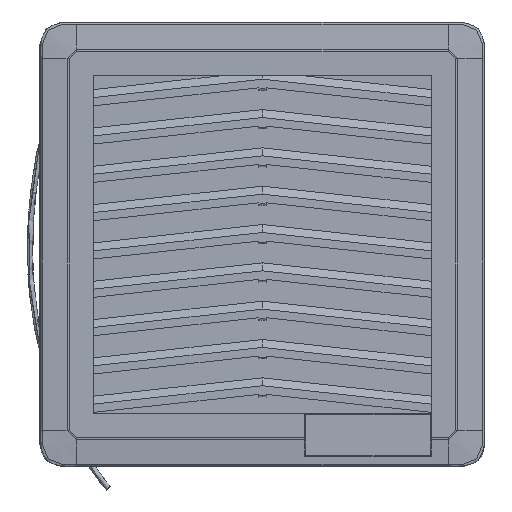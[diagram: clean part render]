
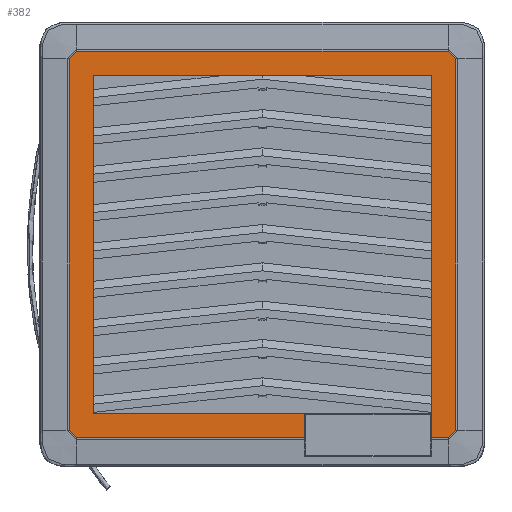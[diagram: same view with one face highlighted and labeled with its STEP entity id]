
A CAD part, top view. The second image highlights one B-rep face of the part: STEP entity #382.
In plain terms, the highlighted planar face has unit normal (0, 0, 1).
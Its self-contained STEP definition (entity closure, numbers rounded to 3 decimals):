
#382=ADVANCED_FACE('',(#805),#7374,.T.);
#805=FACE_OUTER_BOUND('',#1228,.T.);
#1228=EDGE_LOOP('',(#2036,#2037,#2038,#2039,#2040,#2041,#2042,#2043,#2044,
#2045,#2046,#2047,#2048,#2049));
#2036=ORIENTED_EDGE('',*,*,#4276,.F.);
#2037=ORIENTED_EDGE('',*,*,#4291,.F.);
#2038=ORIENTED_EDGE('',*,*,#4279,.F.);
#2039=ORIENTED_EDGE('',*,*,#4296,.F.);
#2040=ORIENTED_EDGE('',*,*,#4280,.F.);
#2041=ORIENTED_EDGE('',*,*,#4302,.F.);
#2042=ORIENTED_EDGE('',*,*,#4281,.F.);
#2043=ORIENTED_EDGE('',*,*,#4306,.F.);
#2044=ORIENTED_EDGE('',*,*,#4282,.F.);
#2045=ORIENTED_EDGE('',*,*,#4283,.F.);
#2046=ORIENTED_EDGE('',*,*,#4026,.F.);
#2047=ORIENTED_EDGE('',*,*,#3996,.F.);
#2048=ORIENTED_EDGE('',*,*,#4266,.T.);
#2049=ORIENTED_EDGE('',*,*,#4001,.T.);
#3996=EDGE_CURVE('',#6358,#6319,#5554,.T.);
#4001=EDGE_CURVE('',#6366,#6365,#5559,.T.);
#4026=EDGE_CURVE('',#6319,#6409,#5584,.T.);
#4266=EDGE_CURVE('',#6358,#6366,#5824,.T.);
#4276=EDGE_CURVE('',#6527,#6365,#5834,.T.);
#4279=EDGE_CURVE('',#6529,#6528,#5835,.T.);
#4280=EDGE_CURVE('',#6531,#6530,#5836,.T.);
#4281=EDGE_CURVE('',#6533,#6532,#5837,.T.);
#4282=EDGE_CURVE('',#6535,#6534,#5838,.T.);
#4283=EDGE_CURVE('',#6409,#6535,#5839,.T.);
#4291=EDGE_CURVE('',#6528,#6527,#5152,.T.);
#4296=EDGE_CURVE('',#6530,#6529,#5156,.T.);
#4302=EDGE_CURVE('',#6532,#6531,#5161,.T.);
#4306=EDGE_CURVE('',#6534,#6533,#5164,.T.);
#5152=(
BOUNDED_CURVE()
B_SPLINE_CURVE(2,(#10065,#10066,#10067),.UNSPECIFIED.,.F.,.F.)
B_SPLINE_CURVE_WITH_KNOTS((3,3),(0.,2.73),.UNSPECIFIED.)
CURVE()
GEOMETRIC_REPRESENTATION_ITEM()
RATIONAL_B_SPLINE_CURVE((1.,0.707,1.))
REPRESENTATION_ITEM('')
);
#5156=(
BOUNDED_CURVE()
B_SPLINE_CURVE(2,(#10079,#10080,#10081),.UNSPECIFIED.,.F.,.F.)
B_SPLINE_CURVE_WITH_KNOTS((3,3),(0.,2.73),.UNSPECIFIED.)
CURVE()
GEOMETRIC_REPRESENTATION_ITEM()
RATIONAL_B_SPLINE_CURVE((1.,0.707,1.))
REPRESENTATION_ITEM('')
);
#5161=(
BOUNDED_CURVE()
B_SPLINE_CURVE(2,(#10096,#10097,#10098),.UNSPECIFIED.,.F.,.F.)
B_SPLINE_CURVE_WITH_KNOTS((3,3),(0.,2.73),.UNSPECIFIED.)
CURVE()
GEOMETRIC_REPRESENTATION_ITEM()
RATIONAL_B_SPLINE_CURVE((1.,0.707,1.))
REPRESENTATION_ITEM('')
);
#5164=(
BOUNDED_CURVE()
B_SPLINE_CURVE(2,(#10107,#10108,#10109),.UNSPECIFIED.,.F.,.F.)
B_SPLINE_CURVE_WITH_KNOTS((3,3),(0.,2.73),.UNSPECIFIED.)
CURVE()
GEOMETRIC_REPRESENTATION_ITEM()
RATIONAL_B_SPLINE_CURVE((1.,0.707,1.))
REPRESENTATION_ITEM('')
);
#5554=B_SPLINE_CURVE_WITH_KNOTS('',1,(#9462,#9463),.UNSPECIFIED.,.F.,.F.,
(2,2),(0.,81.),.UNSPECIFIED.);
#5559=B_SPLINE_CURVE_WITH_KNOTS('',1,(#9472,#9473),.UNSPECIFIED.,.F.,.F.,
(2,2),(-86.775,0.),.UNSPECIFIED.);
#5584=B_SPLINE_CURVE_WITH_KNOTS('',1,(#9526,#9527),.UNSPECIFIED.,.F.,.F.,
(2,2),(0.,50.6),.UNSPECIFIED.);
#5824=B_SPLINE_CURVE_WITH_KNOTS('',1,(#10006,#10007),.UNSPECIFIED.,.F.,
 .F.,(2,2),(-80.9,0.),.UNSPECIFIED.);
#5834=B_SPLINE_CURVE_WITH_KNOTS('',1,(#10026,#10027),.UNSPECIFIED.,.F.,
 .F.,(2,2),(0.,4.087),.UNSPECIFIED.);
#5835=B_SPLINE_CURVE_WITH_KNOTS('',1,(#10034,#10035),.UNSPECIFIED.,.F.,
 .F.,(2,2),(-89.073,0.),.UNSPECIFIED.);
#5836=B_SPLINE_CURVE_WITH_KNOTS('',1,(#10036,#10037),.UNSPECIFIED.,.F.,
 .F.,(2,2),(-89.073,0.),.UNSPECIFIED.);
#5837=B_SPLINE_CURVE_WITH_KNOTS('',1,(#10038,#10039),.UNSPECIFIED.,.F.,
 .F.,(2,2),(-89.073,0.),.UNSPECIFIED.);
#5838=B_SPLINE_CURVE_WITH_KNOTS('',1,(#10040,#10041),.UNSPECIFIED.,.F.,
 .F.,(2,2),(-54.687,0.),.UNSPECIFIED.);
#5839=B_SPLINE_CURVE_WITH_KNOTS('',1,(#10042,#10043),.UNSPECIFIED.,.F.,
 .F.,(2,2),(-5.775,0.),.UNSPECIFIED.);
#6319=VERTEX_POINT('',#9148);
#6358=VERTEX_POINT('',#9187);
#6365=VERTEX_POINT('',#9194);
#6366=VERTEX_POINT('',#9195);
#6409=VERTEX_POINT('',#9238);
#6527=VERTEX_POINT('',#9356);
#6528=VERTEX_POINT('',#9357);
#6529=VERTEX_POINT('',#9358);
#6530=VERTEX_POINT('',#9359);
#6531=VERTEX_POINT('',#9360);
#6532=VERTEX_POINT('',#9361);
#6533=VERTEX_POINT('',#9362);
#6534=VERTEX_POINT('',#9363);
#6535=VERTEX_POINT('',#9364);
#7374=PLANE('',#7727);
#7727=AXIS2_PLACEMENT_3D('',#8351,#8033,$);
#8033=DIRECTION('',(0.,0.,1.));
#8351=CARTESIAN_POINT('',(55.53,-55.53,6.5));
#9148=CARTESIAN_POINT('',(-40.45,-40.5,6.5));
#9187=CARTESIAN_POINT('',(-40.45,40.5,6.5));
#9194=CARTESIAN_POINT('',(40.45,-46.275,6.5));
#9195=CARTESIAN_POINT('',(40.45,40.5,6.5));
#9238=CARTESIAN_POINT('',(10.15,-40.5,6.5));
#9356=CARTESIAN_POINT('',(44.537,-46.275,6.5));
#9357=CARTESIAN_POINT('',(46.275,-44.537,6.5));
#9358=CARTESIAN_POINT('',(46.275,44.537,6.5));
#9359=CARTESIAN_POINT('',(44.537,46.275,6.5));
#9360=CARTESIAN_POINT('',(-44.537,46.275,6.5));
#9361=CARTESIAN_POINT('',(-46.275,44.537,6.5));
#9362=CARTESIAN_POINT('',(-46.275,-44.537,6.5));
#9363=CARTESIAN_POINT('',(-44.537,-46.275,6.5));
#9364=CARTESIAN_POINT('',(10.15,-46.275,6.5));
#9462=CARTESIAN_POINT('',(-40.45,40.5,6.5));
#9463=CARTESIAN_POINT('',(-40.45,-40.5,6.5));
#9472=CARTESIAN_POINT('',(40.45,40.5,6.5));
#9473=CARTESIAN_POINT('',(40.45,-46.275,6.5));
#9526=CARTESIAN_POINT('',(-40.45,-40.5,6.5));
#9527=CARTESIAN_POINT('',(10.15,-40.5,6.5));
#10006=CARTESIAN_POINT('',(-40.45,40.5,6.5));
#10007=CARTESIAN_POINT('',(40.45,40.5,6.5));
#10026=CARTESIAN_POINT('',(44.537,-46.275,6.5));
#10027=CARTESIAN_POINT('',(40.45,-46.275,6.5));
#10034=CARTESIAN_POINT('',(46.275,44.537,6.5));
#10035=CARTESIAN_POINT('',(46.275,-44.537,6.5));
#10036=CARTESIAN_POINT('',(-44.537,46.275,6.5));
#10037=CARTESIAN_POINT('',(44.537,46.275,6.5));
#10038=CARTESIAN_POINT('',(-46.275,-44.537,6.5));
#10039=CARTESIAN_POINT('',(-46.275,44.537,6.5));
#10040=CARTESIAN_POINT('',(10.15,-46.275,6.5));
#10041=CARTESIAN_POINT('',(-44.537,-46.275,6.5));
#10042=CARTESIAN_POINT('',(10.15,-40.5,6.5));
#10043=CARTESIAN_POINT('',(10.15,-46.275,6.5));
#10065=CARTESIAN_POINT('',(46.275,-44.537,6.5));
#10066=CARTESIAN_POINT('',(46.275,-46.275,6.5));
#10067=CARTESIAN_POINT('',(44.537,-46.275,6.5));
#10079=CARTESIAN_POINT('',(44.537,46.275,6.5));
#10080=CARTESIAN_POINT('',(46.275,46.275,6.5));
#10081=CARTESIAN_POINT('',(46.275,44.537,6.5));
#10096=CARTESIAN_POINT('',(-46.275,44.537,6.5));
#10097=CARTESIAN_POINT('',(-46.275,46.275,6.5));
#10098=CARTESIAN_POINT('',(-44.537,46.275,6.5));
#10107=CARTESIAN_POINT('',(-44.537,-46.275,6.5));
#10108=CARTESIAN_POINT('',(-46.275,-46.275,6.5));
#10109=CARTESIAN_POINT('',(-46.275,-44.537,6.5));
